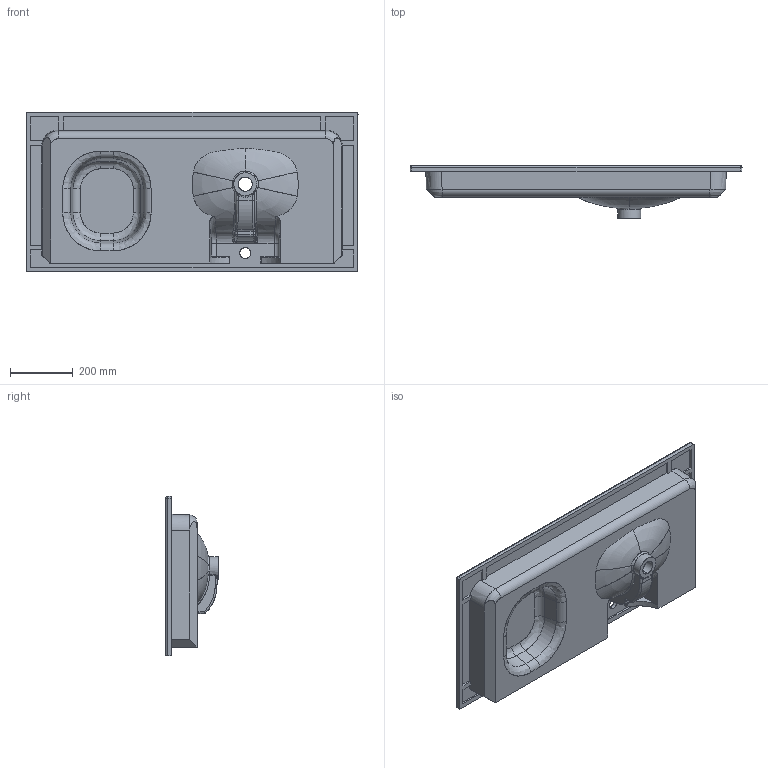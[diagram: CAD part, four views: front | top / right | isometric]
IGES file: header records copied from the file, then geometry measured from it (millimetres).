
Start section: SolidWorks IGES file using NURBS representation for surfaces
Global section: file name: C:\Users\User\Desktop\Soft\lavabi definitivi soft 51 m\soft 1060 x 510 v dx art.SO106DX101\soft 1060 x 510 v dx art.SO106DX101.IGS; native system: SolidWorks 2016; preprocessor: SolidWorks 2016; author: User; date: 200630.092514; units: millimetre
Bounding box: 1060 x 168 x 510 mm (x, y, z)
Surface area: 1502292.4 mm2 (no closed solid volume)
Topology: 0 solids, 0 shells, 183 faces, 2392 edges, 2384 vertices
Faces by surface type: bspline 183
